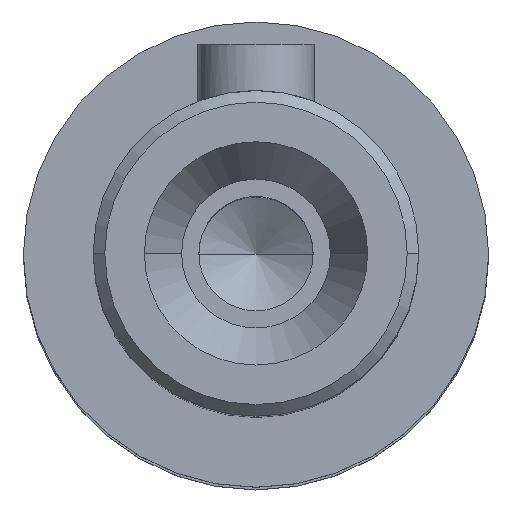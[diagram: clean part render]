
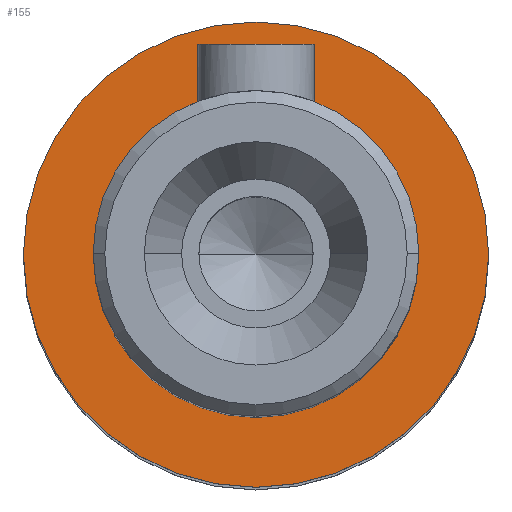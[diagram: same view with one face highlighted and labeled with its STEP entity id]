
A CAD part, top view. The second image highlights one B-rep face of the part: STEP entity #155.
In plain terms, the highlighted planar face has unit normal (0, 0, 1).
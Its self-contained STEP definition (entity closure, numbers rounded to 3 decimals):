
#14=FACE_BOUND('',#255,.T.);
#30=PLANE('',#1130);
#155=ADVANCED_FACE('',(#203,#14),#30,.T.);
#203=FACE_OUTER_BOUND('',#254,.T.);
#254=EDGE_LOOP('',(#394));
#255=EDGE_LOOP('',(#395));
#394=ORIENTED_EDGE('',*,*,#560,.F.);
#395=ORIENTED_EDGE('',*,*,#559,.F.);
#559=EDGE_CURVE('',#918,#918,#801,.T.);
#560=EDGE_CURVE('',#919,#919,#802,.T.);
#801=CIRCLE('',#1131,7.);
#802=CIRCLE('',#1132,10.);
#918=VERTEX_POINT('',#1846);
#919=VERTEX_POINT('',#1847);
#1130=AXIS2_PLACEMENT_3D('',#1845,#1300,$);
#1131=AXIS2_PLACEMENT_3D($,#1848,#1301,#1302);
#1132=AXIS2_PLACEMENT_3D($,#1849,#1303,#1304);
#1300=DIRECTION('',(0.,0.,1.));
#1301=DIRECTION('',(0.,0.,1.));
#1302=DIRECTION('',(1.,0.,0.));
#1303=DIRECTION('',(0.,0.,-1.));
#1304=DIRECTION('',(1.,0.,0.));
#1845=CARTESIAN_POINT('',(12.06,-12.06,34.));
#1846=CARTESIAN_POINT('',(7.,0.,34.));
#1847=CARTESIAN_POINT('',(10.,0.,34.));
#1848=CARTESIAN_POINT('',(0.,0.,34.));
#1849=CARTESIAN_POINT('',(0.,0.,34.));
